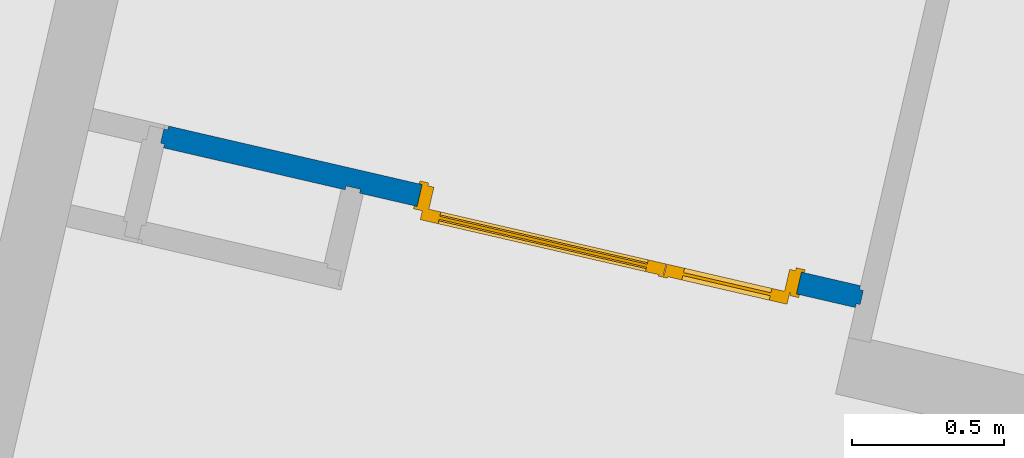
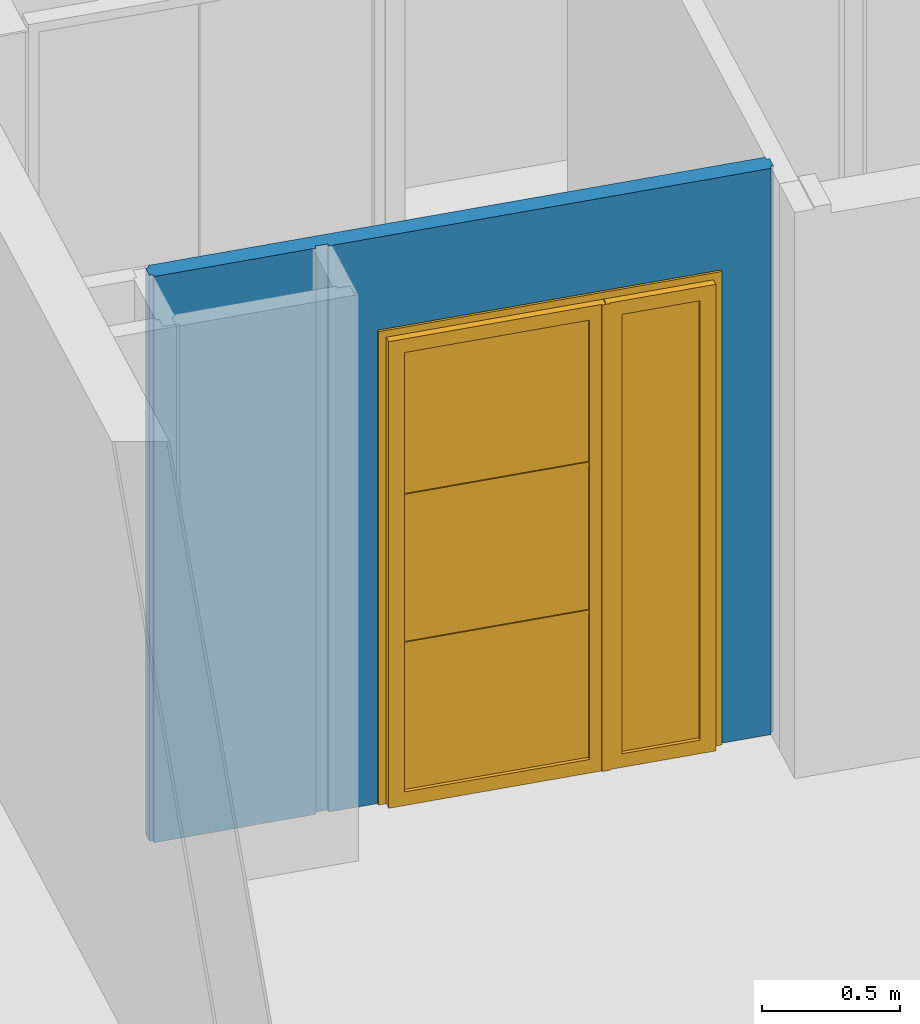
# One storey, part 31 of 90: 1 door, 1 wall, 1 opening.
"""IFC2X3 building model written with IfcOpenShell, lengths in metres."""

from ifc_helpers import new_model, entity, si_unit, converted_unit, derived_unit, money_unit, direction, frame, origin_with_axes, place, context, subcontext, project, spatial, faceted_brep, source, transform, mapped, material, material_list, type_object, element, fill, save


model = new_model("IFC2X3")

# Units and contexts
model_context = context("Model", 3, precision=1e-05, world=origin_with_axes(), true_north=direction((0.0, 1.0)))
body_context = subcontext(model_context, "Body", "Model", "MODEL_VIEW")
ifc_project = project(units=[si_unit("LENGTHUNIT", "METRE"), si_unit("AREAUNIT", "SQUARE_METRE"), si_unit("VOLUMEUNIT", "CUBIC_METRE"), converted_unit("PLANEANGLEUNIT", "DEGREE", entity("IfcPlaneAngleMeasure", 0.0174532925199), si_unit("PLANEANGLEUNIT", "RADIAN"), dimensions=[0, 0, 0, 0, 0, 0, 0]), si_unit("SOLIDANGLEUNIT", "STERADIAN"), money_unit("EUR"), converted_unit("TIMEUNIT", "Year", entity("IfcTimeMeasure", 31556926.0), si_unit("TIMEUNIT", "SECOND"), dimensions=[0, 0, 1, 0, 0, 0, 0]), si_unit("MASSUNIT", "GRAM", prefix="KILO"), si_unit("THERMODYNAMICTEMPERATUREUNIT", "DEGREE_CELSIUS"), si_unit("LUMINOUSINTENSITYUNIT", "LUMEN"), si_unit("ENERGYUNIT", "JOULE", prefix="MEGA"), derived_unit("THERMALCONDUCTANCEUNIT", [(si_unit("POWERUNIT", "WATT"), 1), (si_unit("LENGTHUNIT", "METRE"), -1), (si_unit("THERMODYNAMICTEMPERATUREUNIT", "KELVIN"), -1)]), derived_unit("SPECIFICHEATCAPACITYUNIT", [(si_unit("ENERGYUNIT", "JOULE"), 1), (si_unit("MASSUNIT", "GRAM", prefix="KILO"), -1), (si_unit("THERMODYNAMICTEMPERATUREUNIT", "KELVIN"), -1)]), derived_unit("MASSDENSITYUNIT", [(si_unit("MASSUNIT", "GRAM", prefix="KILO"), 1), (si_unit("VOLUMEUNIT", "CUBIC_METRE"), -1)])], contexts=[model_context])

# Site, building, storey
site_placement = place(None, origin_with_axes())
site = spatial("IfcSite", under=ifc_project, at=site_placement, Name="Site", CompositionType="ELEMENT")
building_placement = place(site_placement, origin_with_axes())
building = spatial("IfcBuilding", under=site, at=building_placement, Name="Bâtiment", CompositionType="ELEMENT")
storey_placement = place(building_placement, frame((0.0, 0.0, 2.72), z_axis=(0.0, 0.0, 1.0), x_axis=(1.0, 0.0, 0.0)))
storey = spatial("IfcBuildingStorey", under=building, at=storey_placement, Name="R+1", CompositionType="ELEMENT", Elevation=2.72)

# Wall, opening, door
ifc_material_1 = material(Name="Finition int - Plaque de plâtre")
ifc_material_2 = material(Name="Isolation - Laine de roche")
ifc_material_list = material_list([ifc_material_1, ifc_material_2, ifc_material_1])
wall_type = type_object("IfcWallType", Name="3 - Cloison 72mm Placostil 74", PredefinedType="USERDEFINED")
wall_placement = place(storey_placement, frame((-7.0248799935, 8.30326196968, 0.0), z_axis=(0.0, 0.0, 1.0), x_axis=(0.974387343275, -0.224876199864, 0.0)))
wall = element("IfcWall", 1, at=wall_placement, inside=storey, type_object=wall_type, material=ifc_material_list, Name="Cloison Placostil 72/48", ObjectType="PARTITIONING", context=body_context, shape_type="Brep", body=[
    faceted_brep([(0.855399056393, 0.074, 2.08), (0.855399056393, 0.074, 0.0), (0.0, 0.074, 0.0), (0.0, 0.074, 2.5), (2.33436525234, 0.074, 2.5), (2.33436525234, 0.074, 0.0), (2.13539905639, 0.074, 0.0), (2.13539905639, 0.074, 2.08), (0.855399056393, 0.061, 2.08), (0.855399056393, 0.061, 0.0), (0.0, 0.061, 0.0), (0.0, 0.061, 2.5), (2.33436525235, 0.061, 2.5), (2.33436525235, 0.061, 0.0), (2.13539905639, 0.061, 0.0), (2.13539905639, 0.061, 2.08)], [[[0, 1, 2, 3, 4, 5, 6, 7]], [[1, 0, 8, 9]], [[1, 9, 10, 2]], [[11, 3, 2, 10]], [[3, 11, 12, 4]], [[12, 13, 5, 4]], [[14, 6, 5, 13]], [[7, 6, 14, 15]], [[0, 7, 15, 8]], [[15, 14, 13, 12, 11, 10, 9, 8]]]),
    faceted_brep([(0.855399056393, 0.061, 2.08), (0.855399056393, 0.0610000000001, 0.0), (-0.013000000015, 0.0610000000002, 0.0), (-0.013000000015, 0.0610000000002, 2.5), (2.34736525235, 0.061, 2.5), (2.34736525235, 0.061, 0.0), (2.13539905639, 0.061, 0.0), (2.13539905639, 0.061, 2.08), (0.855399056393, 0.013, 2.08), (0.855399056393, 0.013, 0.0), (-0.0130000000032, 0.013, 0.0), (-0.0130000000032, 0.013, 2.5), (2.34736525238, 0.013, 2.5), (2.34736525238, 0.013, 0.0), (2.13539905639, 0.013, 0.0), (2.13539905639, 0.013, 2.08)], [[[0, 1, 2, 3, 4, 5, 6, 7]], [[1, 0, 8, 9]], [[1, 9, 10, 2]], [[11, 3, 2, 10]], [[3, 11, 12, 4]], [[12, 13, 5, 4]], [[14, 6, 5, 13]], [[7, 6, 14, 15]], [[0, 7, 15, 8]], [[15, 14, 13, 12, 11, 10, 9, 8]]]),
    faceted_brep([(0.612999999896, 0.013, 0.0), (0.0, 0.013, 0.0), (0.0, 0.013, 2.5), (0.612999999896, 0.013, 2.5), (0.612999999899, 0.0, 0.0), (0.0, 0.0, 0.0), (0.0, 0.0, 2.5), (0.612999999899, 0.0, 2.5)], [[[0, 1, 2, 3]], [[4, 5, 1, 0]], [[5, 6, 2, 1]], [[3, 2, 6, 7]], [[3, 7, 4, 0]], [[7, 6, 5, 4]]]),
    faceted_brep([(0.855399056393, 0.013, 2.08), (0.855399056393, 0.013, 0.0), (0.660999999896, 0.013, 0.0), (0.660999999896, 0.013, 2.5), (2.33436525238, 0.013, 2.5), (2.33436525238, 0.013, 0.0), (2.13539905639, 0.013, 0.0), (2.13539905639, 0.013, 2.08), (0.855399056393, 0.0, 2.08), (0.855399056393, 0.0, 0.0), (0.660999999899, 0.0, 0.0), (0.660999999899, 0.0, 2.5), (2.33436525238, 0.0, 2.5), (2.33436525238, 0.0, 0.0), (2.13539905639, 0.0, 0.0), (2.13539905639, 0.0, 2.08)], [[[0, 1, 2, 3, 4, 5, 6, 7]], [[1, 0, 8, 9]], [[1, 9, 10, 2]], [[10, 11, 3, 2]], [[11, 12, 4, 3]], [[13, 5, 4, 12]], [[14, 6, 5, 13]], [[7, 6, 14, 15]], [[0, 7, 15, 8]], [[15, 14, 13, 12, 11, 10, 9, 8]]]),
])
opening_placement = place(wall_placement, frame((1.49539905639, 0.0, 0.0), z_axis=(0.0, 0.0, 1.0), x_axis=(1.0, 0.0, 0.0)))
opening = element("IfcOpeningElement", 2, at=opening_placement, cuts=wall, Name="Porte 120x204 bois alvéolaire", context=body_context, shape_type="Brep", body=[
    faceted_brep([(-0.64, 0.074, 0.0), (0.64, 0.074, 0.0), (0.64, -0.074, 0.0), (-0.64, -0.074, 0.0), (-0.64, 0.074, 2.08), (0.64, 0.074, 2.08), (0.64, -0.074, 2.08), (-0.64, -0.074, 2.08)], [[[0, 1, 2, 3]], [[0, 4, 5, 1]], [[1, 5, 6, 2]], [[3, 2, 6, 7]], [[4, 0, 3, 7]], [[5, 4, 7, 6]]]),
])
door_style = type_object("IfcDoorStyle", Name="Porte int générique 2019", ConstructionType="NOTDEFINED", OperationType="DOUBLE_DOOR_SINGLE_SWING", ParameterTakesPrecedence=False, Sizeable=False)
shared_shape = source(origin_with_axes(), body_context, "Body", "Brep", [
    faceted_brep([(0.64, -0.006, 0.0), (0.6, -0.006, 0.0), (0.6, -0.006, 2.04), (-0.6, -0.006, 2.04), (-0.6, -0.006, 0.0), (-0.64, -0.006, 0.0), (-0.64, -0.006, 2.08), (0.64, -0.006, 2.08), (0.64, -0.08, 0.0), (0.6, -0.08, 0.0), (0.6, -0.08, 2.04), (-0.6, -0.08, 2.04), (-0.6, -0.08, 0.0), (-0.64, -0.08, 0.0), (-0.64, -0.08, 2.08), (0.64, -0.08, 2.08)], [[[0, 1, 2, 3, 4, 5, 6, 7]], [[0, 8, 9, 1]], [[1, 9, 10, 2]], [[2, 10, 11, 3]], [[3, 11, 12, 4]], [[5, 4, 12, 13]], [[14, 6, 5, 13]], [[15, 7, 6, 14]], [[8, 0, 7, 15]], [[9, 8, 15, 14, 13, 12, 11, 10]]]),
    faceted_brep([(0.65, -0.006, 0.0), (0.65, 0.004, 0.0), (0.65, 0.004, 2.09), (0.65, -0.006, 2.09), (0.62, -0.006, 0.0), (0.62, 0.004, 0.0), (0.62, 0.004, 2.06), (-0.62, 0.004, 2.06), (-0.62, 0.004, 0.0), (-0.65, 0.004, 0.0), (-0.65, 0.004, 2.09), (-0.65, -0.006, 2.09), (-0.65, -0.006, 0.0), (-0.62, -0.006, 0.0), (-0.62, -0.006, 2.06), (0.62, -0.006, 2.06)], [[[0, 1, 2, 3]], [[0, 4, 5, 1]], [[1, 5, 6, 7, 8, 9, 10, 2]], [[3, 2, 10, 11]], [[4, 0, 3, 11, 12, 13, 14, 15]], [[5, 4, 15, 6]], [[6, 15, 14, 7]], [[7, 14, 13, 8]], [[12, 9, 8, 13]], [[11, 10, 9, 12]]]),
    faceted_brep([(0.65, -0.09, 0.0), (0.65, -0.08, 0.0), (0.65, -0.08, 2.09), (0.65, -0.09, 2.09), (0.62, -0.09, 0.0), (0.62, -0.08, 0.0), (0.62, -0.08, 2.06), (-0.62, -0.08, 2.06), (-0.62, -0.08, 0.0), (-0.65, -0.08, 0.0), (-0.65, -0.08, 2.09), (-0.65, -0.09, 2.09), (-0.65, -0.09, 0.0), (-0.62, -0.09, 0.0), (-0.62, -0.09, 2.06), (0.62, -0.09, 2.06)], [[[0, 1, 2, 3]], [[0, 4, 5, 1]], [[1, 5, 6, 7, 8, 9, 10, 2]], [[3, 2, 10, 11]], [[4, 0, 3, 11, 12, 13, 14, 15]], [[5, 4, 15, 6]], [[6, 15, 14, 7]], [[7, 14, 13, 8]], [[12, 9, 8, 13]], [[11, 10, 9, 12]]]),
    faceted_brep([(-0.6175, 0.024, 2.06), (-0.2025, 0.024, 2.06), (-0.2025, 0.024, 0.0), (-0.6175, 0.024, 0.0), (-0.5575, 0.024, 0.06), (-0.2625, 0.024, 0.06), (-0.2625, 0.024, 2.0), (-0.5575, 0.024, 2.0), (-0.6175, 0.014, 2.06), (-0.2025, 0.014, 2.06), (-0.2025, 0.014, 0.0), (-0.6175, 0.014, 0.0), (-0.5575, 0.014, 0.06), (-0.2625, 0.014, 0.06), (-0.2625, 0.014, 2.0), (-0.5575, 0.014, 2.0)], [[[0, 1, 2, 3], [4, 5, 6, 7]], [[0, 8, 9, 1]], [[1, 9, 10, 2]], [[2, 10, 11, 3]], [[3, 11, 8, 0]], [[12, 13, 5, 4]], [[13, 14, 6, 5]], [[14, 15, 7, 6]], [[15, 12, 4, 7]], [[10, 9, 8, 11], [12, 15, 14, 13]]]),
    faceted_brep([(-0.6175, 0.014, 2.06), (-0.2025, 0.014, 2.06), (-0.2025, 0.014, 0.0), (-0.6175, 0.014, 0.0), (-0.5575, 0.014, 0.06), (-0.2625, 0.014, 0.06), (-0.2625, 0.014, 2.0), (-0.5575, 0.014, 2.0), (-0.6175, 0.004, 2.06), (-0.2025, 0.004, 2.06), (-0.2025, 0.004, 0.0), (-0.6175, 0.004, 0.0), (-0.5575, 0.004, 0.06), (-0.2625, 0.004, 0.06), (-0.2625, 0.004, 2.0), (-0.5575, 0.004, 2.0)], [[[0, 1, 2, 3], [4, 5, 6, 7]], [[0, 8, 9, 1]], [[1, 9, 10, 2]], [[2, 10, 11, 3]], [[3, 11, 8, 0]], [[12, 13, 5, 4]], [[13, 14, 6, 5]], [[14, 15, 7, 6]], [[15, 12, 4, 7]], [[10, 9, 8, 11], [12, 15, 14, 13]]]),
    faceted_brep([(-0.6175, 0.034, 0.0), (-0.2025, 0.034, 0.0), (-0.2025, 0.024, 0.0), (-0.6175, 0.024, 0.0), (-0.6175, 0.034, 2.06), (-0.2025, 0.034, 2.06), (-0.5575, 0.034, 0.06), (-0.2625, 0.034, 0.06), (-0.2625, 0.034, 2.0), (-0.5575, 0.034, 2.0), (-0.2025, 0.024, 2.06), (-0.6175, 0.024, 2.06), (-0.5575, 0.024, 0.06), (-0.5575, 0.024, 2.0), (-0.2625, 0.024, 2.0), (-0.2625, 0.024, 0.06)], [[[0, 1, 2, 3]], [[0, 4, 5, 1], [6, 7, 8, 9]], [[1, 5, 10, 2]], [[3, 2, 10, 11], [12, 13, 14, 15]], [[4, 0, 3, 11]], [[5, 4, 11, 10]], [[7, 6, 12, 15]], [[8, 7, 15, 14]], [[9, 8, 14, 13]], [[6, 9, 13, 12]]]),
    faceted_brep([(-0.6175, 0.004, 0.0), (-0.2025, 0.004, 0.0), (-0.2025, -0.006, 0.0), (-0.6175, -0.006, 0.0), (-0.6175, 0.004, 2.06), (-0.2025, 0.004, 2.06), (-0.5575, 0.004, 0.06), (-0.2625, 0.004, 0.06), (-0.2625, 0.004, 2.0), (-0.5575, 0.004, 2.0), (-0.2025, -0.006, 2.06), (-0.6175, -0.006, 2.06), (-0.5575, -0.006, 0.06), (-0.5575, -0.006, 2.0), (-0.2625, -0.006, 2.0), (-0.2625, -0.006, 0.06)], [[[0, 1, 2, 3]], [[0, 4, 5, 1], [6, 7, 8, 9]], [[1, 5, 10, 2]], [[3, 2, 10, 11], [12, 13, 14, 15]], [[4, 0, 3, 11]], [[5, 4, 11, 10]], [[7, 6, 12, 15]], [[8, 7, 15, 14]], [[9, 8, 14, 13]], [[6, 9, 13, 12]]]),
    faceted_brep([(-0.5575, 0.019, 0.06), (-0.2625, 0.019, 0.06), (-0.2625, 0.009, 0.06), (-0.5575, 0.009, 0.06), (-0.5575, 0.019, 2.0), (-0.2625, 0.019, 2.0), (-0.2625, 0.009, 2.0), (-0.5575, 0.009, 2.0)], [[[0, 1, 2, 3]], [[0, 4, 5, 1]], [[1, 5, 6, 2]], [[3, 2, 6, 7]], [[4, 0, 3, 7]], [[5, 4, 7, 6]]]),
    faceted_brep([(0.62, 0.024, 2.06), (0.62, 0.024, 0.0), (-0.2, 0.024, 0.0), (-0.2, 0.024, 2.06), (0.56, 0.024, 0.693333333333), (-0.14, 0.024, 0.693333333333), (-0.14, 0.024, 0.06), (0.56, 0.024, 0.06), (0.56, 0.024, 0.713333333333), (0.56, 0.024, 1.34666666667), (-0.14, 0.024, 1.34666666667), (-0.14, 0.024, 0.713333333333), (-0.14, 0.024, 1.36666666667), (0.56, 0.024, 1.36666666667), (0.56, 0.024, 2.0), (-0.14, 0.024, 2.0), (0.62, 0.014, 2.06), (0.62, 0.014, 0.0), (-0.2, 0.014, 0.0), (-0.2, 0.014, 2.06), (0.56, 0.014, 0.693333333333), (-0.14, 0.014, 0.693333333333), (-0.14, 0.014, 0.06), (0.56, 0.014, 0.06), (0.56, 0.014, 1.34666666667), (0.56, 0.014, 0.713333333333), (-0.14, 0.014, 1.34666666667), (-0.14, 0.014, 0.713333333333), (-0.14, 0.014, 1.36666666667), (0.56, 0.014, 1.36666666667), (0.56, 0.014, 2.0), (-0.14, 0.014, 2.0)], [[[0, 1, 2, 3], [4, 5, 6, 7], [8, 9, 10, 11], [12, 13, 14, 15]], [[1, 0, 16, 17]], [[2, 1, 17, 18]], [[3, 2, 18, 19]], [[0, 3, 19, 16]], [[5, 4, 20, 21]], [[6, 5, 21, 22]], [[7, 6, 22, 23]], [[4, 7, 23, 20]], [[24, 9, 8, 25]], [[26, 10, 9, 24]], [[27, 11, 10, 26]], [[25, 8, 11, 27]], [[28, 29, 13, 12]], [[29, 30, 14, 13]], [[30, 31, 15, 14]], [[31, 28, 12, 15]], [[18, 17, 16, 19], [20, 23, 22, 21], [26, 24, 25, 27], [28, 31, 30, 29]]]),
    faceted_brep([(0.62, 0.014, 2.06), (0.62, 0.014, 0.0), (-0.2, 0.014, 0.0), (-0.2, 0.014, 2.06), (0.56, 0.014, 0.693333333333), (-0.14, 0.014, 0.693333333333), (-0.14, 0.014, 0.06), (0.56, 0.014, 0.06), (0.56, 0.014, 0.713333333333), (0.56, 0.014, 1.34666666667), (-0.14, 0.014, 1.34666666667), (-0.14, 0.014, 0.713333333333), (-0.14, 0.014, 1.36666666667), (0.56, 0.014, 1.36666666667), (0.56, 0.014, 2.0), (-0.14, 0.014, 2.0), (0.62, 0.004, 2.06), (0.62, 0.004, 0.0), (-0.2, 0.004, 0.0), (-0.2, 0.004, 2.06), (0.56, 0.004, 0.693333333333), (-0.14, 0.004, 0.693333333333), (-0.14, 0.004, 0.06), (0.56, 0.004, 0.06), (0.56, 0.004, 1.34666666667), (0.56, 0.004, 0.713333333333), (-0.14, 0.004, 1.34666666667), (-0.14, 0.004, 0.713333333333), (-0.14, 0.004, 1.36666666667), (0.56, 0.004, 1.36666666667), (0.56, 0.004, 2.0), (-0.14, 0.004, 2.0)], [[[0, 1, 2, 3], [4, 5, 6, 7], [8, 9, 10, 11], [12, 13, 14, 15]], [[1, 0, 16, 17]], [[2, 1, 17, 18]], [[3, 2, 18, 19]], [[0, 3, 19, 16]], [[5, 4, 20, 21]], [[6, 5, 21, 22]], [[7, 6, 22, 23]], [[4, 7, 23, 20]], [[24, 9, 8, 25]], [[26, 10, 9, 24]], [[27, 11, 10, 26]], [[25, 8, 11, 27]], [[28, 29, 13, 12]], [[29, 30, 14, 13]], [[30, 31, 15, 14]], [[31, 28, 12, 15]], [[18, 17, 16, 19], [20, 23, 22, 21], [26, 24, 25, 27], [28, 31, 30, 29]]]),
    faceted_brep([(0.62, 0.034, 0.0), (0.62, 0.024, 0.0), (-0.2, 0.024, 0.0), (-0.2, 0.034, 0.0), (0.62, 0.034, 2.06), (0.62, 0.024, 2.06), (-0.2, 0.024, 2.06), (0.56, 0.024, 0.06), (-0.14, 0.024, 0.06), (-0.14, 0.024, 2.0), (0.56, 0.024, 2.0), (-0.2, 0.034, 2.06), (0.56, 0.034, 0.06), (0.56, 0.034, 2.0), (-0.14, 0.034, 2.0), (-0.14, 0.034, 0.06)], [[[0, 1, 2, 3]], [[4, 5, 1, 0]], [[1, 5, 6, 2], [7, 8, 9, 10]], [[3, 2, 6, 11]], [[0, 3, 11, 4], [12, 13, 14, 15]], [[11, 6, 5, 4]], [[15, 8, 7, 12]], [[14, 9, 8, 15]], [[13, 10, 9, 14]], [[12, 7, 10, 13]]]),
    faceted_brep([(0.62, 0.004, 0.0), (0.62, -0.006, 0.0), (-0.2, -0.006, 0.0), (-0.2, 0.004, 0.0), (0.62, 0.004, 2.06), (0.62, -0.006, 2.06), (-0.2, -0.006, 2.06), (0.56, -0.006, 0.06), (-0.14, -0.006, 0.06), (-0.14, -0.006, 2.0), (0.56, -0.006, 2.0), (-0.2, 0.004, 2.06), (0.56, 0.004, 0.06), (0.56, 0.004, 2.0), (-0.14, 0.004, 2.0), (-0.14, 0.004, 0.06)], [[[0, 1, 2, 3]], [[4, 5, 1, 0]], [[1, 5, 6, 2], [7, 8, 9, 10]], [[3, 2, 6, 11]], [[0, 3, 11, 4], [12, 13, 14, 15]], [[11, 6, 5, 4]], [[15, 8, 7, 12]], [[14, 9, 8, 15]], [[13, 10, 9, 14]], [[12, 7, 10, 13]]]),
    faceted_brep([(0.56, 0.019, 0.06), (0.56, 0.009, 0.06), (-0.14, 0.009, 0.06), (-0.14, 0.019, 0.06), (0.56, 0.019, 0.693333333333), (0.56, 0.009, 0.693333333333), (-0.14, 0.009, 0.693333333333), (-0.14, 0.019, 0.693333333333)], [[[0, 1, 2, 3]], [[4, 5, 1, 0]], [[1, 5, 6, 2]], [[3, 2, 6, 7]], [[0, 3, 7, 4]], [[7, 6, 5, 4]]]),
    faceted_brep([(0.56, 0.019, 0.713333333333), (0.56, 0.009, 0.713333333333), (-0.14, 0.009, 0.713333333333), (-0.14, 0.019, 0.713333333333), (0.56, 0.019, 1.34666666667), (0.56, 0.009, 1.34666666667), (-0.14, 0.009, 1.34666666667), (-0.14, 0.019, 1.34666666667)], [[[0, 1, 2, 3]], [[4, 5, 1, 0]], [[1, 5, 6, 2]], [[3, 2, 6, 7]], [[0, 3, 7, 4]], [[7, 6, 5, 4]]]),
    faceted_brep([(0.56, 0.019, 1.36666666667), (0.56, 0.009, 1.36666666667), (-0.14, 0.009, 1.36666666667), (-0.14, 0.019, 1.36666666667), (0.56, 0.019, 2.0), (0.56, 0.009, 2.0), (-0.14, 0.009, 2.0), (-0.14, 0.019, 2.0)], [[[0, 1, 2, 3]], [[4, 5, 1, 0]], [[1, 5, 6, 2]], [[3, 2, 6, 7]], [[0, 3, 7, 4]], [[7, 6, 5, 4]]]),
    faceted_brep([(-0.185, 0.039, 0.0), (-0.215, 0.039, 0.0), (-0.215, 0.039, 2.06), (-0.185, 0.039, 2.06), (-0.185, 0.034, 0.0), (-0.215, 0.034, 0.0), (-0.215, 0.034, 2.06), (-0.185, 0.034, 2.06)], [[[0, 1, 2, 3]], [[1, 0, 4, 5]], [[2, 1, 5, 6]], [[3, 2, 6, 7]], [[0, 3, 7, 4]], [[5, 4, 7, 6]]]),
])
door_placement = place(opening_placement, frame((0.6, 0.0, 0.0), z_axis=(0.0, 0.0, 1.0), x_axis=(-1.0, 0.0, 0.0)))
door = element("IfcDoor", 3, at=door_placement, inside=storey, type_object=door_style, Name="Porte 120x204 bois alvéolaire", ObjectType="DOOR", OverallHeight=2.04, OverallWidth=1.2, context=body_context, shape_type="MappedRepresentation", body=[
    mapped(shared_shape, transform((0.6, 0.006, 0.0))),
])
fill(opening, door)

save(model, "model.ifc")
